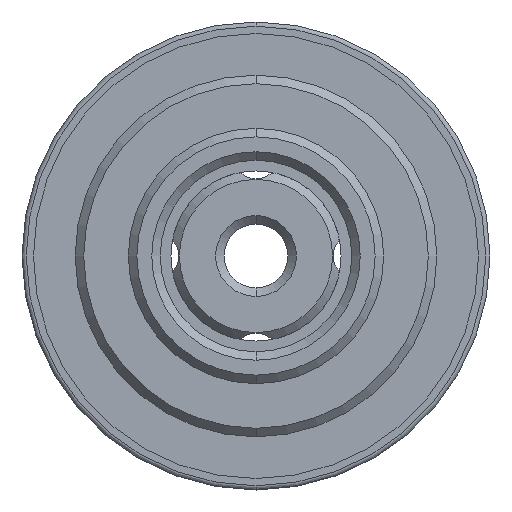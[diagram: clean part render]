
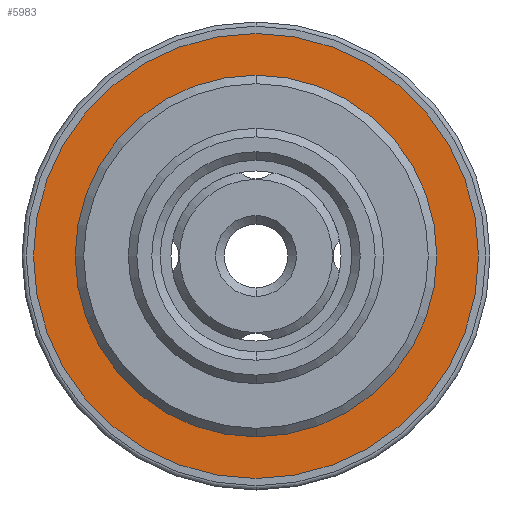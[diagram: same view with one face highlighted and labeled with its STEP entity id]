
A CAD part, front view. The second image highlights one B-rep face of the part: STEP entity #5983.
In plain terms, the highlighted planar face has unit normal (0, -1, 0).
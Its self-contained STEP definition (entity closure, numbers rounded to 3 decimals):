
#39 = CIRCLE ( 'NONE', #2611, 5.23 ) ;
#47 = CIRCLE ( 'NONE', #4996, 5.23 ) ;
#422 = CIRCLE ( 'NONE', #2246, 4.035 ) ;
#444 = DIRECTION ( 'NONE',  ( 0., 1., 0. ) ) ;
#566 = EDGE_CURVE ( 'NONE', #4455, #823, #422, .T. ) ;
#576 = DIRECTION ( 'NONE',  ( 0., 1., 0. ) ) ;
#823 = VERTEX_POINT ( 'NONE', #6395 ) ;
#955 = VERTEX_POINT ( 'NONE', #4657 ) ;
#1090 = EDGE_CURVE ( 'NONE', #823, #4455, #5170, .T. ) ;
#1098 = CARTESIAN_POINT ( 'NONE',  ( 0., -10.85, 0. ) ) ;
#1865 = DIRECTION ( 'NONE',  ( 0., 1., 0. ) ) ;
#1992 = FACE_OUTER_BOUND ( 'NONE', #3425, .T. ) ;
#2246 = AXIS2_PLACEMENT_3D ( 'NONE', #1098, #1865, #5903 ) ;
#2255 = AXIS2_PLACEMENT_3D ( 'NONE', #4180, #576, #4692 ) ;
#2300 = EDGE_LOOP ( 'NONE', ( #2667, #6068 ) ) ;
#2427 = CARTESIAN_POINT ( 'NONE',  ( 0., -10.85, 0. ) ) ;
#2503 = CARTESIAN_POINT ( 'NONE',  ( 0., -10.85, 4.035 ) ) ;
#2611 = AXIS2_PLACEMENT_3D ( 'NONE', #2701, #6269, #6327 ) ;
#2667 = ORIENTED_EDGE ( 'NONE', *, *, #566, .T. ) ;
#2701 = CARTESIAN_POINT ( 'NONE',  ( 0., -10.85, 0. ) ) ;
#2871 = ORIENTED_EDGE ( 'NONE', *, *, #6026, .F. ) ;
#2940 = AXIS2_PLACEMENT_3D ( 'NONE', #6167, #444, #5099 ) ;
#2997 = DIRECTION ( 'NONE',  ( 0., 0., 1. ) ) ;
#3425 = EDGE_LOOP ( 'NONE', ( #2871, #5902 ) ) ;
#3468 = PLANE ( 'NONE',  #2940 ) ;
#4180 = CARTESIAN_POINT ( 'NONE',  ( 0., -10.85, 0. ) ) ;
#4455 = VERTEX_POINT ( 'NONE', #2503 ) ;
#4485 = FACE_BOUND ( 'NONE', #2300, .T. ) ;
#4657 = CARTESIAN_POINT ( 'NONE',  ( 0., -10.85, 5.23 ) ) ;
#4692 = DIRECTION ( 'NONE',  ( 0., 0., 1. ) ) ;
#4729 = VERTEX_POINT ( 'NONE', #5965 ) ;
#4996 = AXIS2_PLACEMENT_3D ( 'NONE', #2427, #5599, #2997 ) ;
#5099 = DIRECTION ( 'NONE',  ( 0., 0., 1. ) ) ;
#5170 = CIRCLE ( 'NONE', #2255, 4.035 ) ;
#5599 = DIRECTION ( 'NONE',  ( 0., 1., 0. ) ) ;
#5751 = EDGE_CURVE ( 'NONE', #4729, #955, #39, .T. ) ;
#5902 = ORIENTED_EDGE ( 'NONE', *, *, #5751, .F. ) ;
#5903 = DIRECTION ( 'NONE',  ( 0., 0., 1. ) ) ;
#5965 = CARTESIAN_POINT ( 'NONE',  ( 0., -10.85, -5.23 ) ) ;
#5983 = ADVANCED_FACE ( 'NONE', ( #1992, #4485 ), #3468, .F. ) ;
#6026 = EDGE_CURVE ( 'NONE', #955, #4729, #47, .T. ) ;
#6068 = ORIENTED_EDGE ( 'NONE', *, *, #1090, .T. ) ;
#6167 = CARTESIAN_POINT ( 'NONE',  ( 4.035, -10.85, 0. ) ) ;
#6269 = DIRECTION ( 'NONE',  ( 0., 1., 0. ) ) ;
#6327 = DIRECTION ( 'NONE',  ( 0., 0., 1. ) ) ;
#6395 = CARTESIAN_POINT ( 'NONE',  ( 0., -10.85, -4.035 ) ) ;
